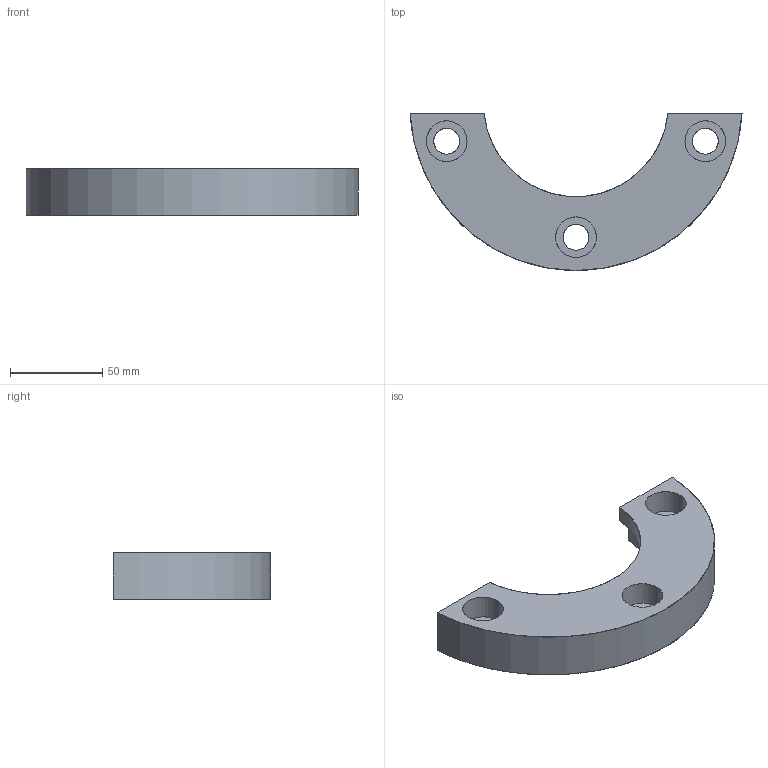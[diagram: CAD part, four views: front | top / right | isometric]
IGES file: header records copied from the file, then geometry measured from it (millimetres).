
Start section: SolidWorks IGES file using analytic representation for surfaces
Global section: file name: C:\Users\Dell\Desktop\delta\kontrol edilecekler\D30.03.01\D30.03.01_80.igs; native system: SolidWorks 2010; preprocessor: SolidWorks 2010; author: Dell; date: 111217.173335; units: metre
Bounding box: 179.72 x 85 x 25 mm (x, y, z)
Surface area: 32765.9 mm2 (no closed solid volume)
Topology: 0 solids, 0 shells, 23 faces, 654 edges, 654 vertices
Faces by surface type: revolution 15, bspline 8
